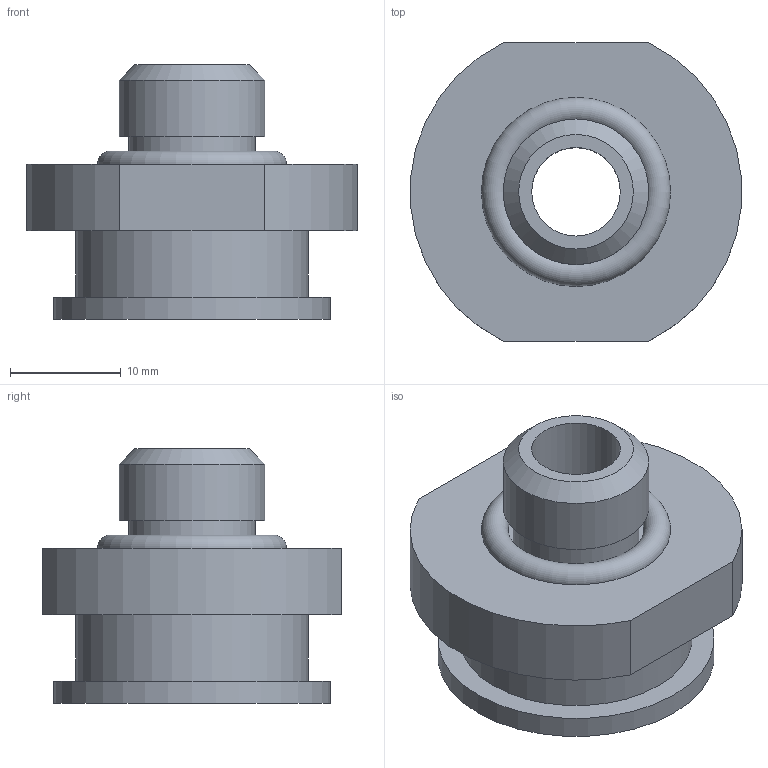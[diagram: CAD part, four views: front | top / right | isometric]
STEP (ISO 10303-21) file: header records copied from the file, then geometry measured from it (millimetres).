
FILE_DESCRIPTION(('STEP AP214'),'1');
FILE_NAME('.stp','2024-08-29T05:33:41',(' '),(' '),'Spatial InterOp 3D',' ',' ');
FILE_SCHEMA(('AUTOMOTIVE_DESIGN { 1 0 10303 214 1 1 1 1 }'));
Length unit declared in the file: millimetre
Products named in the file (2): HGL-40-G2-K; パーツ5
Assembly tree (1 placements, depth 2):
  HGL-40-G2-K
    パーツ5
Bounding box: 29.89 x 27 x 23 mm (x, y, z)
Volume: 6886.3 mm3; surface area: 3860.5 mm2
Topology: 1 solids, 1 shells, 20 faces, 36 edges, 24 vertices
Faces by surface type: plane 10, cylinder 8, cone 1, torus 1
Full cylindrical faces by diameter (mm): 8 x1, 10 x1, 11.4 x1, 13.157 x1, 21 x1, 25 x1
Entity records: 657 total; most frequent: DIRECTION 90, CARTESIAN_POINT 72, ORIENTED_EDGE 54, AXIS2_PLACEMENT_3D 41, EDGE_LOOP 36, FACE_OUTER_BOUND 27, EDGE_CURVE 27, VERTEX_POINT 23
